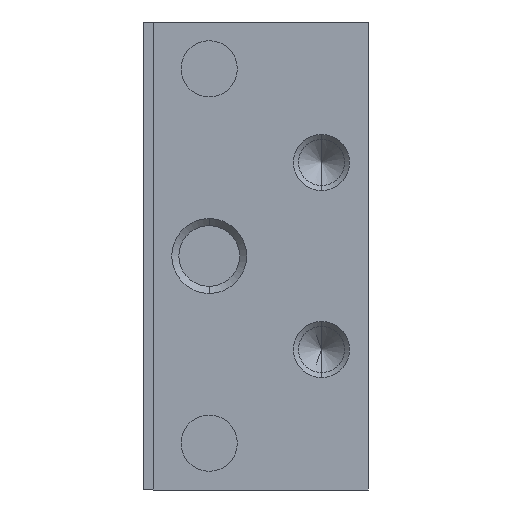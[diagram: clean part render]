
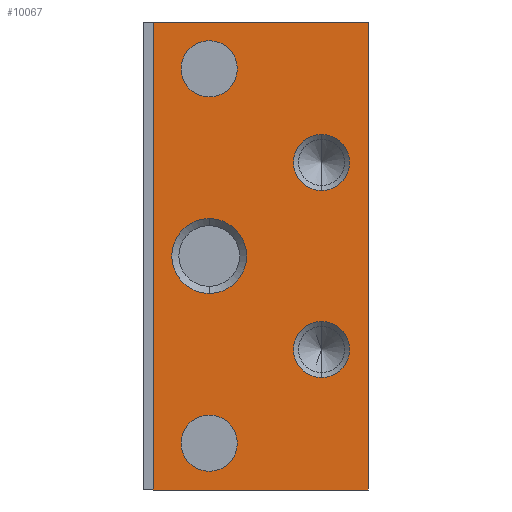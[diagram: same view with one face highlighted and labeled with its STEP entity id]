
A CAD part, left-side view. The second image highlights one B-rep face of the part: STEP entity #10067.
In plain terms, the highlighted planar face has unit normal (-1, 0, 0).
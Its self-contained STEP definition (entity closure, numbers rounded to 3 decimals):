
#33 = VECTOR ( 'NONE', #9371, 1000. ) ;
#183 = CARTESIAN_POINT ( 'NONE',  ( -27.5, 8.5, -10. ) ) ;
#186 = VERTEX_POINT ( 'NONE', #1008 ) ;
#240 = DIRECTION ( 'NONE',  ( 0., -1., 0. ) ) ;
#293 = DIRECTION ( 'NONE',  ( 0., 0., -1. ) ) ;
#429 = VERTEX_POINT ( 'NONE', #4700 ) ;
#443 = FACE_BOUND ( 'NONE', #6314, .T. ) ;
#463 = ORIENTED_EDGE ( 'NONE', *, *, #9870, .T. ) ;
#548 = DIRECTION ( 'NONE',  ( 0., 0., -1. ) ) ;
#591 = DIRECTION ( 'NONE',  ( 0., 0., 1. ) ) ;
#599 = DIRECTION ( 'NONE',  ( 1., 0., 0. ) ) ;
#649 = FACE_OUTER_BOUND ( 'NONE', #7649, .T. ) ;
#664 = DIRECTION ( 'NONE',  ( -1., 0., 0. ) ) ;
#961 = EDGE_CURVE ( 'NONE', #9482, #2061, #1901, .T. ) ;
#997 = CIRCLE ( 'NONE', #7573, 1.5 ) ;
#1008 = CARTESIAN_POINT ( 'NONE',  ( -27.5, 8.5, 8.5 ) ) ;
#1025 = LINE ( 'NONE', #9891, #7741 ) ;
#1128 = CARTESIAN_POINT ( 'NONE',  ( -27.5, 0., 12.5 ) ) ;
#1144 = DIRECTION ( 'NONE',  ( 0., 0., -1. ) ) ;
#1179 = CIRCLE ( 'NONE', #2532, 1.5 ) ;
#1203 = CARTESIAN_POINT ( 'NONE',  ( -27.5, 2.5, 5. ) ) ;
#1367 = AXIS2_PLACEMENT_3D ( 'NONE', #183, #4039, #3404 ) ;
#1489 = ORIENTED_EDGE ( 'NONE', *, *, #3375, .F. ) ;
#1642 = EDGE_LOOP ( 'NONE', ( #463, #4863 ) ) ;
#1707 = CIRCLE ( 'NONE', #9618, 2. ) ;
#1715 = CIRCLE ( 'NONE', #2390, 1.5 ) ;
#1833 = CARTESIAN_POINT ( 'NONE',  ( -27.5, 8.5, -8.5 ) ) ;
#1875 = DIRECTION ( 'NONE',  ( 0., 0., -1. ) ) ;
#1901 = CIRCLE ( 'NONE', #10315, 1.5 ) ;
#1940 = ORIENTED_EDGE ( 'NONE', *, *, #7686, .F. ) ;
#2005 = VERTEX_POINT ( 'NONE', #1128 ) ;
#2040 = CIRCLE ( 'NONE', #1367, 1.5 ) ;
#2061 = VERTEX_POINT ( 'NONE', #10042 ) ;
#2141 = CARTESIAN_POINT ( 'NONE',  ( -27.5, 8.5, 10. ) ) ;
#2180 = PLANE ( 'NONE',  #6334 ) ;
#2287 = CARTESIAN_POINT ( 'NONE',  ( -27.5, 2.5, 6.5 ) ) ;
#2311 = EDGE_CURVE ( 'NONE', #7804, #4550, #1707, .T. ) ;
#2390 = AXIS2_PLACEMENT_3D ( 'NONE', #1203, #4475, #7643 ) ;
#2459 = CARTESIAN_POINT ( 'NONE',  ( -27.5, 8.5, 10. ) ) ;
#2532 = AXIS2_PLACEMENT_3D ( 'NONE', #6997, #3726, #5512 ) ;
#2723 = VECTOR ( 'NONE', #1144, 1000. ) ;
#2824 = CARTESIAN_POINT ( 'NONE',  ( -27.5, 8.5, -11.5 ) ) ;
#2900 = VERTEX_POINT ( 'NONE', #4841 ) ;
#3031 = LINE ( 'NONE', #9477, #33 ) ;
#3086 = CARTESIAN_POINT ( 'NONE',  ( -27.5, 8.5, 0. ) ) ;
#3136 = DIRECTION ( 'NONE',  ( 1., 0., 0. ) ) ;
#3292 = EDGE_CURVE ( 'NONE', #3956, #3926, #2040, .T. ) ;
#3375 = EDGE_CURVE ( 'NONE', #9284, #2005, #5232, .T. ) ;
#3404 = DIRECTION ( 'NONE',  ( 0., 0., -1. ) ) ;
#3467 = AXIS2_PLACEMENT_3D ( 'NONE', #8512, #8669, #548 ) ;
#3626 = VERTEX_POINT ( 'NONE', #9250 ) ;
#3679 = CARTESIAN_POINT ( 'NONE',  ( -27.5, 11.5, 12.5 ) ) ;
#3726 = DIRECTION ( 'NONE',  ( 1., 0., 0. ) ) ;
#3926 = VERTEX_POINT ( 'NONE', #1833 ) ;
#3956 = VERTEX_POINT ( 'NONE', #2824 ) ;
#4039 = DIRECTION ( 'NONE',  ( -1., 0., 0. ) ) ;
#4070 = AXIS2_PLACEMENT_3D ( 'NONE', #8683, #664, #7683 ) ;
#4139 = CARTESIAN_POINT ( 'NONE',  ( -27.5, 11.5, 12.5 ) ) ;
#4144 = EDGE_CURVE ( 'NONE', #2005, #5339, #3031, .T. ) ;
#4262 = EDGE_CURVE ( 'NONE', #3926, #3956, #7435, .T. ) ;
#4269 = CARTESIAN_POINT ( 'NONE',  ( -27.5, 8.5, 2. ) ) ;
#4315 = CARTESIAN_POINT ( 'NONE',  ( -27.5, 2.5, -5. ) ) ;
#4353 = DIRECTION ( 'NONE',  ( -1., 0., 0. ) ) ;
#4475 = DIRECTION ( 'NONE',  ( -1., 0., 0. ) ) ;
#4541 = AXIS2_PLACEMENT_3D ( 'NONE', #5277, #7817, #591 ) ;
#4550 = VERTEX_POINT ( 'NONE', #4269 ) ;
#4700 = CARTESIAN_POINT ( 'NONE',  ( -27.5, 11.5, -12.5 ) ) ;
#4739 = CARTESIAN_POINT ( 'NONE',  ( -27.5, 0., -12.5 ) ) ;
#4841 = CARTESIAN_POINT ( 'NONE',  ( -27.5, 2.5, 3.5 ) ) ;
#4863 = ORIENTED_EDGE ( 'NONE', *, *, #2311, .T. ) ;
#4901 = VECTOR ( 'NONE', #5976, 1000. ) ;
#4971 = EDGE_CURVE ( 'NONE', #2900, #9904, #1715, .T. ) ;
#5031 = EDGE_CURVE ( 'NONE', #9284, #429, #8377, .T. ) ;
#5232 = LINE ( 'NONE', #6768, #4901 ) ;
#5277 = CARTESIAN_POINT ( 'NONE',  ( -27.5, 2.5, 5. ) ) ;
#5339 = VERTEX_POINT ( 'NONE', #4739 ) ;
#5512 = DIRECTION ( 'NONE',  ( 0., 0., -1. ) ) ;
#5976 = DIRECTION ( 'NONE',  ( 0., -1., 0. ) ) ;
#5996 = EDGE_CURVE ( 'NONE', #3626, #186, #6605, .T. ) ;
#6113 = ORIENTED_EDGE ( 'NONE', *, *, #8969, .T. ) ;
#6115 = ORIENTED_EDGE ( 'NONE', *, *, #5031, .T. ) ;
#6161 = CIRCLE ( 'NONE', #3467, 2. ) ;
#6296 = ORIENTED_EDGE ( 'NONE', *, *, #3292, .F. ) ;
#6314 = EDGE_LOOP ( 'NONE', ( #9113, #6296 ) ) ;
#6334 = AXIS2_PLACEMENT_3D ( 'NONE', #6873, #599, #9357 ) ;
#6352 = DIRECTION ( 'NONE',  ( 0., 0., -1. ) ) ;
#6605 = CIRCLE ( 'NONE', #8458, 1.5 ) ;
#6768 = CARTESIAN_POINT ( 'NONE',  ( -27.5, 11.5, 12.5 ) ) ;
#6873 = CARTESIAN_POINT ( 'NONE',  ( -27.5, 11.5, 12.5 ) ) ;
#6997 = CARTESIAN_POINT ( 'NONE',  ( -27.5, 2.5, -5. ) ) ;
#7028 = FACE_BOUND ( 'NONE', #1642, .T. ) ;
#7081 = FACE_BOUND ( 'NONE', #7825, .T. ) ;
#7171 = EDGE_CURVE ( 'NONE', #186, #3626, #997, .T. ) ;
#7435 = CIRCLE ( 'NONE', #4070, 1.5 ) ;
#7490 = ORIENTED_EDGE ( 'NONE', *, *, #4144, .F. ) ;
#7541 = EDGE_CURVE ( 'NONE', #429, #5339, #1025, .T. ) ;
#7573 = AXIS2_PLACEMENT_3D ( 'NONE', #2459, #8942, #1875 ) ;
#7595 = ORIENTED_EDGE ( 'NONE', *, *, #7171, .F. ) ;
#7643 = DIRECTION ( 'NONE',  ( 0., 0., 1. ) ) ;
#7649 = EDGE_LOOP ( 'NONE', ( #9069, #7490, #1489, #6115 ) ) ;
#7661 = CARTESIAN_POINT ( 'NONE',  ( -27.5, 8.5, -2. ) ) ;
#7683 = DIRECTION ( 'NONE',  ( 0., 0., -1. ) ) ;
#7686 = EDGE_CURVE ( 'NONE', #9904, #2900, #8076, .T. ) ;
#7741 = VECTOR ( 'NONE', #240, 1000. ) ;
#7771 = FACE_BOUND ( 'NONE', #10270, .T. ) ;
#7804 = VERTEX_POINT ( 'NONE', #7661 ) ;
#7817 = DIRECTION ( 'NONE',  ( -1., 0., 0. ) ) ;
#7825 = EDGE_LOOP ( 'NONE', ( #6113, #8857 ) ) ;
#8076 = CIRCLE ( 'NONE', #4541, 1.5 ) ;
#8300 = CARTESIAN_POINT ( 'NONE',  ( -27.5, 2.5, -6.5 ) ) ;
#8377 = LINE ( 'NONE', #3679, #2723 ) ;
#8458 = AXIS2_PLACEMENT_3D ( 'NONE', #2141, #4353, #293 ) ;
#8512 = CARTESIAN_POINT ( 'NONE',  ( -27.5, 8.5, 0. ) ) ;
#8564 = FACE_BOUND ( 'NONE', #8584, .T. ) ;
#8584 = EDGE_LOOP ( 'NONE', ( #9269, #7595 ) ) ;
#8586 = DIRECTION ( 'NONE',  ( 0., 0., -1. ) ) ;
#8669 = DIRECTION ( 'NONE',  ( 1., 0., 0. ) ) ;
#8683 = CARTESIAN_POINT ( 'NONE',  ( -27.5, 8.5, -10. ) ) ;
#8857 = ORIENTED_EDGE ( 'NONE', *, *, #961, .T. ) ;
#8942 = DIRECTION ( 'NONE',  ( -1., 0., 0. ) ) ;
#8969 = EDGE_CURVE ( 'NONE', #2061, #9482, #1179, .T. ) ;
#9069 = ORIENTED_EDGE ( 'NONE', *, *, #7541, .T. ) ;
#9113 = ORIENTED_EDGE ( 'NONE', *, *, #4262, .F. ) ;
#9250 = CARTESIAN_POINT ( 'NONE',  ( -27.5, 8.5, 11.5 ) ) ;
#9269 = ORIENTED_EDGE ( 'NONE', *, *, #5996, .F. ) ;
#9284 = VERTEX_POINT ( 'NONE', #4139 ) ;
#9357 = DIRECTION ( 'NONE',  ( 0., 1., 0. ) ) ;
#9371 = DIRECTION ( 'NONE',  ( 0., 0., -1. ) ) ;
#9477 = CARTESIAN_POINT ( 'NONE',  ( -27.5, 0., 12.5 ) ) ;
#9482 = VERTEX_POINT ( 'NONE', #8300 ) ;
#9496 = ORIENTED_EDGE ( 'NONE', *, *, #4971, .F. ) ;
#9618 = AXIS2_PLACEMENT_3D ( 'NONE', #3086, #3136, #6352 ) ;
#9870 = EDGE_CURVE ( 'NONE', #4550, #7804, #6161, .T. ) ;
#9891 = CARTESIAN_POINT ( 'NONE',  ( -27.5, 11.5, -12.5 ) ) ;
#9904 = VERTEX_POINT ( 'NONE', #2287 ) ;
#10042 = CARTESIAN_POINT ( 'NONE',  ( -27.5, 2.5, -3.5 ) ) ;
#10067 = ADVANCED_FACE ( 'NONE', ( #649, #7028, #443, #8564, #7771, #7081 ), #2180, .F. ) ;
#10270 = EDGE_LOOP ( 'NONE', ( #1940, #9496 ) ) ;
#10315 = AXIS2_PLACEMENT_3D ( 'NONE', #4315, #10349, #8586 ) ;
#10349 = DIRECTION ( 'NONE',  ( 1., 0., 0. ) ) ;
